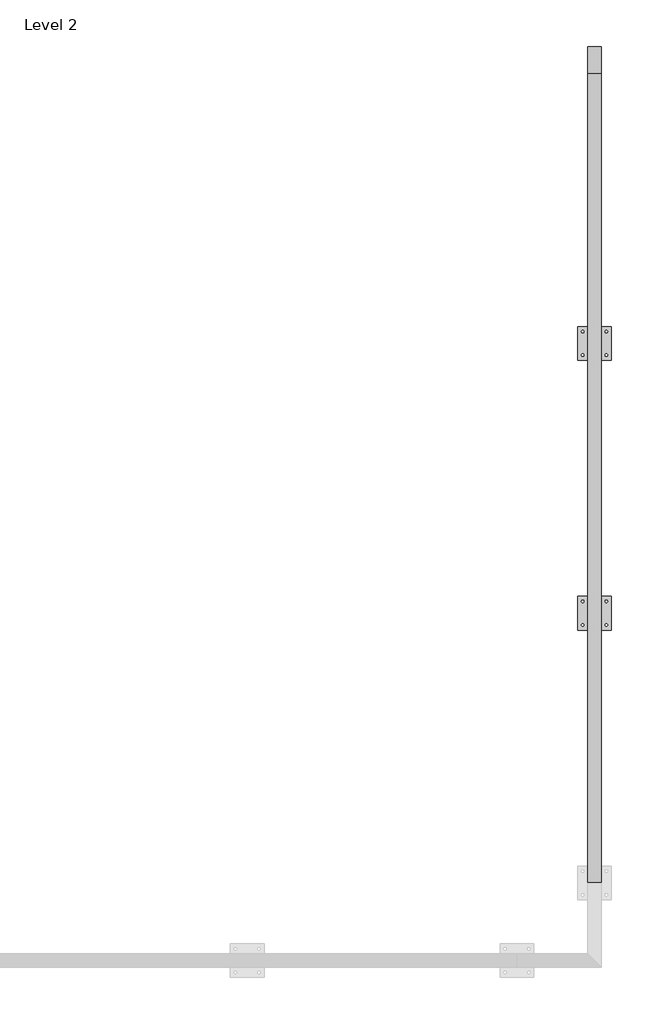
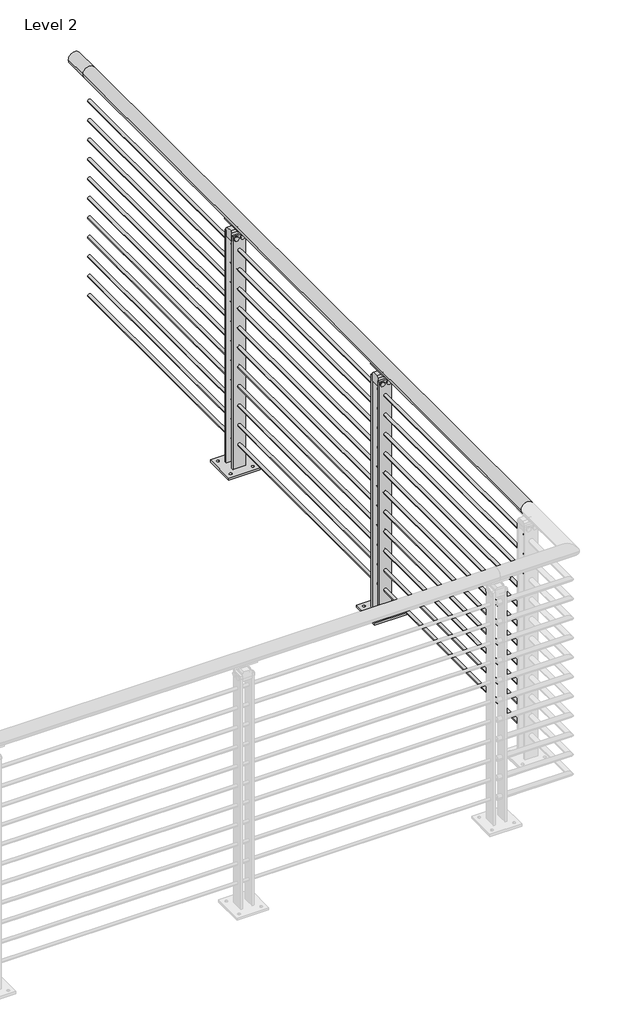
# One storey, part 12 of 31: 1 railing.
"""IFC4 building model written with IfcOpenShell, lengths in millimetres."""

from ifc_helpers import new_model, si_unit, point, frame, frame_2d, origin, place, context, project, spatial, polyline, circle_curve, trimmed, segment, composite_curve, outline, extrude, element, save
from ifc_brep_helpers import plane_surface, cylinder_surface, revolved_surface, advanced_brep

model = new_model("IFC4")

# Units and contexts
model_context = context("Model", 3, world=origin())
ifc_project = project(units=[si_unit("LENGTHUNIT", "METRE", prefix="MILLI")], contexts=[model_context])

# Site, building, storey
site = spatial("IfcSite", under=ifc_project)
building = spatial("IfcBuilding", under=site)
storey = spatial("IfcBuildingStorey", under=building, Name="Level 2", Elevation=3048.0)

# Railing
placement = place(None, origin())
element("IfcRailing", 1, ObjectType="VIVA-BLADE-Multiline-Floor Mount-Straight", at=placement, inside=storey, context=model_context, shape_type="SolidModel", body=[
    advanced_brep(
    [(20840.5072927, -69643.4426165, 4102.1), (20789.7072927, -69643.4426165, 4102.1), (20840.5072927, -66595.4426165, 4102.1), (20789.7072927, -66595.4426165, 4102.1), (20840.5072927, -66493.8426165, 4102.1), (20789.7072927, -66493.8426165, 4102.1)],
    [
        (0, 1, circle_curve(frame((20815.1072927, -69643.4426165, 4102.1), z_axis=(0.0, -1.0, 0.0), x_axis=(-1.0, 0.0, 0.0)), 25.4)),
        (1, 0, circle_curve(frame((20815.1072927, -69643.4426165, 4102.1), z_axis=(0.0, -1.0, 0.0), x_axis=(-1.0, 0.0, 0.0)), 25.4)),
        (0, 2),
        (2, 3, circle_curve(frame((20815.1072927, -66595.4426165, 4102.1), z_axis=(0.0, -1.0, 0.0), x_axis=(-1.0, 0.0, 0.0)), 25.4)),
        (3, 1),
        (3, 2, circle_curve(frame((20815.1072927, -66595.4426165, 4102.1), z_axis=(0.0, -1.0, 0.0), x_axis=(-1.0, 0.0, 0.0)), 25.4)),
        (4, 5, circle_curve(frame((20815.1072927, -66493.8426165, 4102.1), z_axis=(0.0, 1.0, 0.0), x_axis=(-1.0, 0.0, 0.0)), 25.4)),
        (5, 4, circle_curve(frame((20815.1072927, -66493.8426165, 4102.1), z_axis=(0.0, 1.0, 0.0), x_axis=(-1.0, 0.0, 0.0)), 25.4)),
        (2, 4),
        (5, 3),
    ],
    [
        plane_surface(frame((20815.1072927, -69643.4426165, 4127.5), z_axis=(0.0, -1.0, 0.0), x_axis=(0.0, 0.0, 1.0))),
        cylinder_surface(frame((20815.1072927, -69643.4426165, 4102.1), z_axis=(0.0, -1.0, 0.0), x_axis=(-1.0, 0.0, 0.0)), 25.4),
        plane_surface(frame((20815.1072927, -66493.8426165, 4127.5), z_axis=(0.0, 1.0, 0.0), x_axis=(0.0, 0.0, 1.0))),
        cylinder_surface(frame((20815.1072927, -66595.4426165, 4102.1), z_axis=(0.0, -1.0, 0.0), x_axis=(-1.0, 0.0, 0.0)), 25.4),
    ],
    [
        (0, [[1, 2]]),
        (1, [[-1, 3, 4, 5]]),
        (1, [[-2, -5, 6, -3]]),
        (2, [[7, 8]]),
        (3, [[-4, 9, -8, 10]]),
        (3, [[-6, -10, -7, -9]]),
    ],
),
    extrude(outline(composite_curve([segment(trimmed(circle_curve(frame_2d((3981.45, 20815.1072927)), 6.35), [point((3981.45, 20808.7572927))], [point((3981.45, 20821.4572927))], False, "CARTESIAN"), True, "CONTINUOUS"), segment(trimmed(circle_curve(frame_2d((3981.45, 20815.1072927)), 6.35), [point((3981.45, 20821.4572927))], [point((3981.45, 20808.7572927))], False, "CARTESIAN"), True, "CONTINUOUS")], self_intersect=False)), frame((0.0, -69643.4426165, 0.0), z_axis=(0.0, 1.0, 0.0), x_axis=(0.0, 0.0, 1.0)), (0.0, 0.0, 1.0), 3048.0),
    extrude(outline(composite_curve([segment(trimmed(circle_curve(frame_2d((3898.9, 20815.1072927)), 6.35), [point((3898.9, 20808.7572927))], [point((3898.9, 20821.4572927))], False, "CARTESIAN"), True, "CONTINUOUS"), segment(trimmed(circle_curve(frame_2d((3898.9, 20815.1072927)), 6.35), [point((3898.9, 20821.4572927))], [point((3898.9, 20808.7572927))], False, "CARTESIAN"), True, "CONTINUOUS")], self_intersect=False)), frame((0.0, -69643.4426165, 0.0), z_axis=(0.0, 1.0, 0.0), x_axis=(0.0, 0.0, 1.0)), (0.0, 0.0, 1.0), 3048.0),
    extrude(outline(composite_curve([segment(trimmed(circle_curve(frame_2d((3816.35, 20815.1072927)), 6.35), [point((3816.35, 20808.7572927))], [point((3816.35, 20821.4572927))], False, "CARTESIAN"), True, "CONTINUOUS"), segment(trimmed(circle_curve(frame_2d((3816.35, 20815.1072927)), 6.35), [point((3816.35, 20821.4572927))], [point((3816.35, 20808.7572927))], False, "CARTESIAN"), True, "CONTINUOUS")], self_intersect=False)), frame((0.0, -69643.4426165, 0.0), z_axis=(0.0, 1.0, 0.0), x_axis=(0.0, 0.0, 1.0)), (0.0, 0.0, 1.0), 3048.0),
    extrude(outline(composite_curve([segment(trimmed(circle_curve(frame_2d((3733.8, 20815.1072927)), 6.35), [point((3733.8, 20808.7572927))], [point((3733.8, 20821.4572927))], False, "CARTESIAN"), True, "CONTINUOUS"), segment(trimmed(circle_curve(frame_2d((3733.8, 20815.1072927)), 6.35), [point((3733.8, 20821.4572927))], [point((3733.8, 20808.7572927))], False, "CARTESIAN"), True, "CONTINUOUS")], self_intersect=False)), frame((0.0, -69643.4426165, 0.0), z_axis=(0.0, 1.0, 0.0), x_axis=(0.0, 0.0, 1.0)), (0.0, 0.0, 1.0), 3048.0),
    extrude(outline(composite_curve([segment(trimmed(circle_curve(frame_2d((3651.25, 20815.1072927)), 6.35), [point((3651.25, 20808.7572927))], [point((3651.25, 20821.4572927))], False, "CARTESIAN"), True, "CONTINUOUS"), segment(trimmed(circle_curve(frame_2d((3651.25, 20815.1072927)), 6.35), [point((3651.25, 20821.4572927))], [point((3651.25, 20808.7572927))], False, "CARTESIAN"), True, "CONTINUOUS")], self_intersect=False)), frame((0.0, -69643.4426165, 0.0), z_axis=(0.0, 1.0, 0.0), x_axis=(0.0, 0.0, 1.0)), (0.0, 0.0, 1.0), 3048.0),
    extrude(outline(composite_curve([segment(trimmed(circle_curve(frame_2d((3568.7, 20815.1072927)), 6.35), [point((3568.7, 20808.7572927))], [point((3568.7, 20821.4572927))], False, "CARTESIAN"), True, "CONTINUOUS"), segment(trimmed(circle_curve(frame_2d((3568.7, 20815.1072927)), 6.35), [point((3568.7, 20821.4572927))], [point((3568.7, 20808.7572927))], False, "CARTESIAN"), True, "CONTINUOUS")], self_intersect=False)), frame((0.0, -69643.4426165, 0.0), z_axis=(0.0, 1.0, 0.0), x_axis=(0.0, 0.0, 1.0)), (0.0, 0.0, 1.0), 3048.0),
    extrude(outline(composite_curve([segment(trimmed(circle_curve(frame_2d((3486.15, 20815.1072927)), 6.35), [point((3486.15, 20808.7572927))], [point((3486.15, 20821.4572927))], False, "CARTESIAN"), True, "CONTINUOUS"), segment(trimmed(circle_curve(frame_2d((3486.15, 20815.1072927)), 6.35), [point((3486.15, 20821.4572927))], [point((3486.15, 20808.7572927))], False, "CARTESIAN"), True, "CONTINUOUS")], self_intersect=False)), frame((0.0, -69643.4426165, 0.0), z_axis=(0.0, 1.0, 0.0), x_axis=(0.0, 0.0, 1.0)), (0.0, 0.0, 1.0), 3048.0),
    extrude(outline(composite_curve([segment(trimmed(circle_curve(frame_2d((3403.6, 20815.1072927)), 6.35), [point((3403.6, 20808.7572927))], [point((3403.6, 20821.4572927))], False, "CARTESIAN"), True, "CONTINUOUS"), segment(trimmed(circle_curve(frame_2d((3403.6, 20815.1072927)), 6.35), [point((3403.6, 20821.4572927))], [point((3403.6, 20808.7572927))], False, "CARTESIAN"), True, "CONTINUOUS")], self_intersect=False)), frame((0.0, -69643.4426165, 0.0), z_axis=(0.0, 1.0, 0.0), x_axis=(0.0, 0.0, 1.0)), (0.0, 0.0, 1.0), 3048.0),
    extrude(outline(composite_curve([segment(trimmed(circle_curve(frame_2d((3321.05, 20815.1072927)), 6.35), [point((3321.05, 20808.7572927))], [point((3321.05, 20821.4572927))], False, "CARTESIAN"), True, "CONTINUOUS"), segment(trimmed(circle_curve(frame_2d((3321.05, 20815.1072927)), 6.35), [point((3321.05, 20821.4572927))], [point((3321.05, 20808.7572927))], False, "CARTESIAN"), True, "CONTINUOUS")], self_intersect=False)), frame((0.0, -69643.4426165, 0.0), z_axis=(0.0, 1.0, 0.0), x_axis=(0.0, 0.0, 1.0)), (0.0, 0.0, 1.0), 3048.0),
    extrude(outline(composite_curve([segment(trimmed(circle_curve(frame_2d((3238.5, 20815.1072927)), 6.35), [point((3238.5, 20808.7572927))], [point((3238.5, 20821.4572927))], False, "CARTESIAN"), True, "CONTINUOUS"), segment(trimmed(circle_curve(frame_2d((3238.5, 20815.1072927)), 6.35), [point((3238.5, 20821.4572927))], [point((3238.5, 20808.7572927))], False, "CARTESIAN"), True, "CONTINUOUS")], self_intersect=False)), frame((0.0, -69643.4426165, 0.0), z_axis=(0.0, 1.0, 0.0), x_axis=(0.0, 0.0, 1.0)), (0.0, 0.0, 1.0), 3048.0),
    extrude(outline(composite_curve([segment(trimmed(circle_curve(frame_2d((3155.95, 20815.1072927)), 6.35), [point((3155.95, 20808.7572927))], [point((3155.95, 20821.4572927))], False, "CARTESIAN"), True, "CONTINUOUS"), segment(trimmed(circle_curve(frame_2d((3155.95, 20815.1072927)), 6.35), [point((3155.95, 20821.4572927))], [point((3155.95, 20808.7572927))], False, "CARTESIAN"), True, "CONTINUOUS")], self_intersect=False)), frame((0.0, -69643.4426165, 0.0), z_axis=(0.0, 1.0, 0.0), x_axis=(0.0, 0.0, 1.0)), (0.0, 0.0, 1.0), 3048.0),
    advanced_brep(
    [(20802.3471691, -67566.2052165, 4080.0967655), (20827.2192336, -67566.2052165, 4079.9535285), (20830.0281639, -67566.2052165, 4075.1267745), (20798.5112716, -67566.2052165, 4075.707533), (20802.3471691, -67656.6800165, 4080.0967655), (20798.5112716, -67656.6800165, 4075.707533), (20830.1419573, -67656.6800165, 4075.1893964), (20827.3062057, -67656.6800165, 4080.0018447)],
    [
        (0, 1, circle_curve(frame((20814.9109719, -67566.2052165, 4102.2115898), z_axis=(0.0, -1.0, 0.0), x_axis=(-1.0, 0.0, 0.0)), 25.4345159)),
        (1, 2, circle_curve(frame((20828.5508588, -67566.2052165, 4077.4993599), z_axis=(0.0, 1.0, 0.0), x_axis=(-1.0, 0.0, 0.0)), 2.7949225)),
        (2, 3, circle_curve(frame((20814.7775089, -67566.2052165, 4102.9742164), z_axis=(0.0, 1.0, 0.0), x_axis=(-1.0, 0.0, 0.0)), 31.75)),
        (3, 0, circle_curve(frame((20800.7996114, -67566.2052165, 4077.5784521), z_axis=(0.0, 1.0, 0.0), x_axis=(-1.0, 0.0, 0.0)), 2.9558141)),
        (4, 5, circle_curve(frame((20800.7996114, -67656.6800165, 4077.5784521), z_axis=(0.0, -1.0, 0.0), x_axis=(-1.0, 0.0, 0.0)), 2.9558141)),
        (5, 6, circle_curve(frame((20814.7775089, -67656.6800165, 4102.9742164), z_axis=(0.0, -1.0, 0.0), x_axis=(-1.0, 0.0, 0.0)), 31.75)),
        (6, 7, circle_curve(frame((20828.5508588, -67656.6800165, 4077.4993599), z_axis=(0.0, -1.0, 0.0), x_axis=(-1.0, 0.0, 0.0)), 2.7949225)),
        (7, 4, circle_curve(frame((20814.9109719, -67656.6800165, 4102.2115898), z_axis=(0.0, 1.0, 0.0), x_axis=(-1.0, 0.0, 0.0)), 25.4345159)),
        (0, 4),
        (7, 1),
        (6, 2),
        (5, 3),
    ],
    [
        plane_surface(frame((20789.4764561, -67566.2052165, 4102.2115898), z_axis=(0.0, 1.0, 0.0), x_axis=(0.0, 0.0, -1.0))),
        plane_surface(frame((20789.4764561, -67656.6800165, 4102.2115898), z_axis=(0.0, -1.0, 0.0), x_axis=(0.0, 0.0, 1.0))),
        revolved_surface(polyline([(20789.476456, -67656.6800165, 4102.2115898), (20789.476456, -67566.2052165, 4102.2115898)]), (20814.9109719, -67656.6800165, 4102.2115898), (0.0, -1.0, 0.0)),
        cylinder_surface(frame((20828.5508588, -67656.6800165, 4077.4993599), z_axis=(0.0, 1.0, 0.0), x_axis=(-1.0, 0.0, 0.0)), 2.7949225),
        cylinder_surface(frame((20814.7775089, -67656.6800165, 4102.9742164), z_axis=(0.0, 1.0, 0.0), x_axis=(-1.0, 0.0, 0.0)), 31.75),
        cylinder_surface(frame((20800.7996114, -67656.6800165, 4077.5784521), z_axis=(0.0, 1.0, 0.0), x_axis=(-1.0, 0.0, 0.0)), 2.9558141),
    ],
    [
        (0, [[1, 2, 3, 4]]),
        (1, [[5, 6, 7, 8]]),
        (2, [[-1, 9, -8, 10]]),
        (3, [[-2, -10, -7, 11]]),
        (4, [[-3, -11, -6, 12]]),
        (5, [[-4, -12, -5, -9]]),
    ],
),
    extrude(outline(composite_curve([segment(polyline([(-67598.7426165, 4062.4125), (-67624.1426165, 4062.4125)]), True, "CONTINUOUS"), segment(trimmed(circle_curve(frame_2d((-67638.5105314, 4062.4125)), 14.3679149), [point((-67624.1426165, 4062.4125))], [point((-67638.5105314, 4076.7804149))], True, "CARTESIAN"), True, "CONTINUOUS"), segment(polyline([(-67638.5105314, 4076.7804149), (-67584.3747017, 4076.7804149)]), True, "CONTINUOUS"), segment(trimmed(circle_curve(frame_2d((-67584.3747017, 4062.4125)), 14.3679149), [point((-67584.3747017, 4076.7804149))], [point((-67598.7426165, 4062.4125))], True, "CARTESIAN"), True, "CONTINUOUS")], self_intersect=False)), frame((20812.5672927, 0.0, 0.0), z_axis=(1.0, 0.0, 0.0), x_axis=(0.0, 1.0, 0.0)), (0.0, 0.0, 1.0), 5.08),
    extrude(outline(polyline([(20878.6060986, -67547.9545534), (20878.6060986, -67674.9545534), (20751.6084868, -67674.9545534), (20751.6084868, -67547.9545534), (20878.6060986, -67547.9545534)]), holes=[composite_curve([segment(trimmed(circle_curve(frame_2d((20859.5560986, -67655.9045534)), 4.7625), [point((20864.3185986, -67655.9045534))], [point((20854.7935986, -67655.9045534))], True, "CARTESIAN"), True, "CONTINUOUS"), segment(trimmed(circle_curve(frame_2d((20859.5560986, -67655.9045534)), 4.7625), [point((20854.7935986, -67655.9045534))], [point((20864.3185986, -67655.9045534))], True, "CARTESIAN"), True, "CONTINUOUS")], self_intersect=False), composite_curve([segment(trimmed(circle_curve(frame_2d((20770.6584868, -67655.9045534)), 4.7625), [point((20775.4209868, -67655.9045534))], [point((20765.8959868, -67655.9045534))], True, "CARTESIAN"), True, "CONTINUOUS"), segment(trimmed(circle_curve(frame_2d((20770.6584868, -67655.9045534)), 4.7625), [point((20765.8959868, -67655.9045534))], [point((20775.4209868, -67655.9045534))], True, "CARTESIAN"), True, "CONTINUOUS")], self_intersect=False), composite_curve([segment(trimmed(circle_curve(frame_2d((20770.6584868, -67567.0045534)), 4.7625), [point((20775.4209868, -67567.0045534))], [point((20765.8959868, -67567.0045534))], True, "CARTESIAN"), True, "CONTINUOUS"), segment(trimmed(circle_curve(frame_2d((20770.6584868, -67567.0045534)), 4.7625), [point((20765.8959868, -67567.0045534))], [point((20775.4209868, -67567.0045534))], True, "CARTESIAN"), True, "CONTINUOUS")], self_intersect=False), composite_curve([segment(trimmed(circle_curve(frame_2d((20859.5560986, -67567.0045534)), 4.7625), [point((20864.3185986, -67567.0045534))], [point((20854.7935986, -67567.0045534))], True, "CARTESIAN"), True, "CONTINUOUS"), segment(trimmed(circle_curve(frame_2d((20859.5560986, -67567.0045534)), 4.7625), [point((20854.7935986, -67567.0045534))], [point((20864.3185986, -67567.0045534))], True, "CARTESIAN"), True, "CONTINUOUS")], self_intersect=False)]), frame((0.0, 0.0, 3048.0), z_axis=(0.0, 0.0, 1.0), x_axis=(1.0, 0.0, 0.0)), (0.0, 0.0, 1.0), 9.525),
    extrude(outline(polyline([(20789.707496, -67638.5174522), (20789.707496, -67630.4926165), (20840.5098206, -67630.4926165), (20840.5098206, -67638.5174522), (20789.707496, -67638.5174522)])), frame((0.0, 0.0, 3048.0), z_axis=(0.0, 0.0, 1.0), x_axis=(1.0, 0.0, 0.0)), (0.0, 0.0, 1.0), 996.95),
    extrude(outline(composite_curve([segment(trimmed(circle_curve(frame_2d((4034.0416929, 20827.8097696)), 8.89), [point((4034.0416929, 20836.6997696))], [point((4034.0416929, 20818.9197696))], False, "CARTESIAN"), True, "CONTINUOUS"), segment(trimmed(circle_curve(frame_2d((4034.0416929, 20827.8097696)), 8.89), [point((4034.0416929, 20818.9197696))], [point((4034.0416929, 20836.6997696))], False, "CARTESIAN"), True, "CONTINUOUS")], self_intersect=False)), frame((0.0, -67643.1926165, 0.0), z_axis=(0.0, 1.0, 0.0), x_axis=(0.0, 0.0, 1.0)), (0.0, 0.0, 1.0), 63.4880631),
    extrude(outline(composite_curve([segment(trimmed(circle_curve(frame_2d((4034.0416929, 20802.4098716)), 8.89), [point((4034.0416929, 20811.2998716))], [point((4034.0416929, 20793.5198716))], False, "CARTESIAN"), True, "CONTINUOUS"), segment(trimmed(circle_curve(frame_2d((4034.0416929, 20802.4098716)), 8.89), [point((4034.0416929, 20793.5198716))], [point((4034.0416929, 20811.2998716))], False, "CARTESIAN"), True, "CONTINUOUS")], self_intersect=False)), frame((0.0, -67643.1926165, 0.0), z_axis=(0.0, 1.0, 0.0), x_axis=(0.0, 0.0, 1.0)), (0.0, 0.0, 1.0), 63.4880631),
    extrude(outline(polyline([(-67630.4926165, 4022.7123), (-67630.4926165, 4056.0625), (-67624.1426165, 4062.4125), (-67598.7426165, 4062.4125), (-67592.3926165, 4056.0625), (-67592.3926165, 4022.7123), (-67630.4926165, 4022.7123)])), frame((20789.7072927, 0.0, 0.0), z_axis=(1.0, 0.0, 0.0), x_axis=(0.0, 1.0, 0.0)), (0.0, 0.0, 1.0), 50.8025279),
    extrude(outline(polyline([(20789.707496, -67592.3926546), (20789.707496, -67584.3916546), (20840.5098206, -67584.3916546), (20840.5098206, -67592.3926546), (20789.707496, -67592.3926546)])), frame((0.0, 0.0, 3048.0), z_axis=(0.0, 0.0, 1.0), x_axis=(1.0, 0.0, 0.0)), (0.0, 0.0, 1.0), 996.95),
    advanced_brep(
    [(20802.3471691, -68582.2052165, 4080.0967655), (20827.2192336, -68582.2052165, 4079.9535285), (20830.0281639, -68582.2052165, 4075.1267745), (20798.5112716, -68582.2052165, 4075.707533), (20802.3471691, -68672.6800165, 4080.0967655), (20798.5112716, -68672.6800165, 4075.707533), (20830.1419573, -68672.6800165, 4075.1893964), (20827.3062057, -68672.6800165, 4080.0018447)],
    [
        (0, 1, circle_curve(frame((20814.9109719, -68582.2052165, 4102.2115898), z_axis=(0.0, -1.0, 0.0), x_axis=(-1.0, 0.0, 0.0)), 25.4345159)),
        (1, 2, circle_curve(frame((20828.5508588, -68582.2052165, 4077.4993599), z_axis=(0.0, 1.0, 0.0), x_axis=(-1.0, 0.0, 0.0)), 2.7949225)),
        (2, 3, circle_curve(frame((20814.7775089, -68582.2052165, 4102.9742164), z_axis=(0.0, 1.0, 0.0), x_axis=(-1.0, 0.0, 0.0)), 31.75)),
        (3, 0, circle_curve(frame((20800.7996114, -68582.2052165, 4077.5784521), z_axis=(0.0, 1.0, 0.0), x_axis=(-1.0, 0.0, 0.0)), 2.9558141)),
        (4, 5, circle_curve(frame((20800.7996114, -68672.6800165, 4077.5784521), z_axis=(0.0, -1.0, 0.0), x_axis=(-1.0, 0.0, 0.0)), 2.9558141)),
        (5, 6, circle_curve(frame((20814.7775089, -68672.6800165, 4102.9742164), z_axis=(0.0, -1.0, 0.0), x_axis=(-1.0, 0.0, 0.0)), 31.75)),
        (6, 7, circle_curve(frame((20828.5508588, -68672.6800165, 4077.4993599), z_axis=(0.0, -1.0, 0.0), x_axis=(-1.0, 0.0, 0.0)), 2.7949225)),
        (7, 4, circle_curve(frame((20814.9109719, -68672.6800165, 4102.2115898), z_axis=(0.0, 1.0, 0.0), x_axis=(-1.0, 0.0, 0.0)), 25.4345159)),
        (0, 4),
        (7, 1),
        (6, 2),
        (5, 3),
    ],
    [
        plane_surface(frame((20789.4764561, -68582.2052165, 4102.2115898), z_axis=(0.0, 1.0, 0.0), x_axis=(0.0, 0.0, -1.0))),
        plane_surface(frame((20789.4764561, -68672.6800165, 4102.2115898), z_axis=(0.0, -1.0, 0.0), x_axis=(0.0, 0.0, 1.0))),
        revolved_surface(polyline([(20789.476456, -68672.6800165, 4102.2115898), (20789.476456, -68582.2052165, 4102.2115898)]), (20814.9109719, -68672.6800165, 4102.2115898), (0.0, -1.0, 0.0)),
        cylinder_surface(frame((20828.5508588, -68672.6800165, 4077.4993599), z_axis=(0.0, 1.0, 0.0), x_axis=(-1.0, 0.0, 0.0)), 2.7949225),
        cylinder_surface(frame((20814.7775089, -68672.6800165, 4102.9742164), z_axis=(0.0, 1.0, 0.0), x_axis=(-1.0, 0.0, 0.0)), 31.75),
        cylinder_surface(frame((20800.7996114, -68672.6800165, 4077.5784521), z_axis=(0.0, 1.0, 0.0), x_axis=(-1.0, 0.0, 0.0)), 2.9558141),
    ],
    [
        (0, [[1, 2, 3, 4]]),
        (1, [[5, 6, 7, 8]]),
        (2, [[-1, 9, -8, 10]]),
        (3, [[-2, -10, -7, 11]]),
        (4, [[-3, -11, -6, 12]]),
        (5, [[-4, -12, -5, -9]]),
    ],
),
    extrude(outline(composite_curve([segment(polyline([(-68614.7426165, 4062.4125), (-68640.1426165, 4062.4125)]), True, "CONTINUOUS"), segment(trimmed(circle_curve(frame_2d((-68654.5105314, 4062.4125)), 14.3679149), [point((-68640.1426165, 4062.4125))], [point((-68654.5105314, 4076.7804149))], True, "CARTESIAN"), True, "CONTINUOUS"), segment(polyline([(-68654.5105314, 4076.7804149), (-68600.3747017, 4076.7804149)]), True, "CONTINUOUS"), segment(trimmed(circle_curve(frame_2d((-68600.3747017, 4062.4125)), 14.3679149), [point((-68600.3747017, 4076.7804149))], [point((-68614.7426165, 4062.4125))], True, "CARTESIAN"), True, "CONTINUOUS")], self_intersect=False)), frame((20812.5672927, 0.0, 0.0), z_axis=(1.0, 0.0, 0.0), x_axis=(0.0, 1.0, 0.0)), (0.0, 0.0, 1.0), 5.08),
    extrude(outline(polyline([(20878.6060986, -68563.9545534), (20878.6060986, -68690.9545534), (20751.6084868, -68690.9545534), (20751.6084868, -68563.9545534), (20878.6060986, -68563.9545534)]), holes=[composite_curve([segment(trimmed(circle_curve(frame_2d((20859.5560986, -68671.9045534)), 4.7625), [point((20864.3185986, -68671.9045534))], [point((20854.7935986, -68671.9045534))], True, "CARTESIAN"), True, "CONTINUOUS"), segment(trimmed(circle_curve(frame_2d((20859.5560986, -68671.9045534)), 4.7625), [point((20854.7935986, -68671.9045534))], [point((20864.3185986, -68671.9045534))], True, "CARTESIAN"), True, "CONTINUOUS")], self_intersect=False), composite_curve([segment(trimmed(circle_curve(frame_2d((20770.6584868, -68671.9045534)), 4.7625), [point((20775.4209868, -68671.9045534))], [point((20765.8959868, -68671.9045534))], True, "CARTESIAN"), True, "CONTINUOUS"), segment(trimmed(circle_curve(frame_2d((20770.6584868, -68671.9045534)), 4.7625), [point((20765.8959868, -68671.9045534))], [point((20775.4209868, -68671.9045534))], True, "CARTESIAN"), True, "CONTINUOUS")], self_intersect=False), composite_curve([segment(trimmed(circle_curve(frame_2d((20770.6584868, -68583.0045534)), 4.7625), [point((20775.4209868, -68583.0045534))], [point((20765.8959868, -68583.0045534))], True, "CARTESIAN"), True, "CONTINUOUS"), segment(trimmed(circle_curve(frame_2d((20770.6584868, -68583.0045534)), 4.7625), [point((20765.8959868, -68583.0045534))], [point((20775.4209868, -68583.0045534))], True, "CARTESIAN"), True, "CONTINUOUS")], self_intersect=False), composite_curve([segment(trimmed(circle_curve(frame_2d((20859.5560986, -68583.0045534)), 4.7625), [point((20864.3185986, -68583.0045534))], [point((20854.7935986, -68583.0045534))], True, "CARTESIAN"), True, "CONTINUOUS"), segment(trimmed(circle_curve(frame_2d((20859.5560986, -68583.0045534)), 4.7625), [point((20854.7935986, -68583.0045534))], [point((20864.3185986, -68583.0045534))], True, "CARTESIAN"), True, "CONTINUOUS")], self_intersect=False)]), frame((0.0, 0.0, 3048.0), z_axis=(0.0, 0.0, 1.0), x_axis=(1.0, 0.0, 0.0)), (0.0, 0.0, 1.0), 9.525),
    extrude(outline(polyline([(20789.707496, -68654.5174522), (20789.707496, -68646.4926165), (20840.5098206, -68646.4926165), (20840.5098206, -68654.5174522), (20789.707496, -68654.5174522)])), frame((0.0, 0.0, 3048.0), z_axis=(0.0, 0.0, 1.0), x_axis=(1.0, 0.0, 0.0)), (0.0, 0.0, 1.0), 996.95),
    extrude(outline(composite_curve([segment(trimmed(circle_curve(frame_2d((4034.0416929, 20827.8097696)), 8.89), [point((4034.0416929, 20836.6997696))], [point((4034.0416929, 20818.9197696))], False, "CARTESIAN"), True, "CONTINUOUS"), segment(trimmed(circle_curve(frame_2d((4034.0416929, 20827.8097696)), 8.89), [point((4034.0416929, 20818.9197696))], [point((4034.0416929, 20836.6997696))], False, "CARTESIAN"), True, "CONTINUOUS")], self_intersect=False)), frame((0.0, -68659.1926165, 0.0), z_axis=(0.0, 1.0, 0.0), x_axis=(0.0, 0.0, 1.0)), (0.0, 0.0, 1.0), 63.4880631),
    extrude(outline(composite_curve([segment(trimmed(circle_curve(frame_2d((4034.0416929, 20802.4098716)), 8.89), [point((4034.0416929, 20811.2998716))], [point((4034.0416929, 20793.5198716))], False, "CARTESIAN"), True, "CONTINUOUS"), segment(trimmed(circle_curve(frame_2d((4034.0416929, 20802.4098716)), 8.89), [point((4034.0416929, 20793.5198716))], [point((4034.0416929, 20811.2998716))], False, "CARTESIAN"), True, "CONTINUOUS")], self_intersect=False)), frame((0.0, -68659.1926165, 0.0), z_axis=(0.0, 1.0, 0.0), x_axis=(0.0, 0.0, 1.0)), (0.0, 0.0, 1.0), 63.4880631),
    extrude(outline(polyline([(-68646.4926165, 4022.7123), (-68646.4926165, 4056.0625), (-68640.1426165, 4062.4125), (-68614.7426165, 4062.4125), (-68608.3926165, 4056.0625), (-68608.3926165, 4022.7123), (-68646.4926165, 4022.7123)])), frame((20789.7072927, 0.0, 0.0), z_axis=(1.0, 0.0, 0.0), x_axis=(0.0, 1.0, 0.0)), (0.0, 0.0, 1.0), 50.8025279),
    extrude(outline(polyline([(20789.707496, -68608.3926546), (20789.707496, -68600.3916546), (20840.5098206, -68600.3916546), (20840.5098206, -68608.3926546), (20789.707496, -68608.3926546)])), frame((0.0, 0.0, 3048.0), z_axis=(0.0, 0.0, 1.0), x_axis=(1.0, 0.0, 0.0)), (0.0, 0.0, 1.0), 996.95),
])

save(model, "model.ifc")
